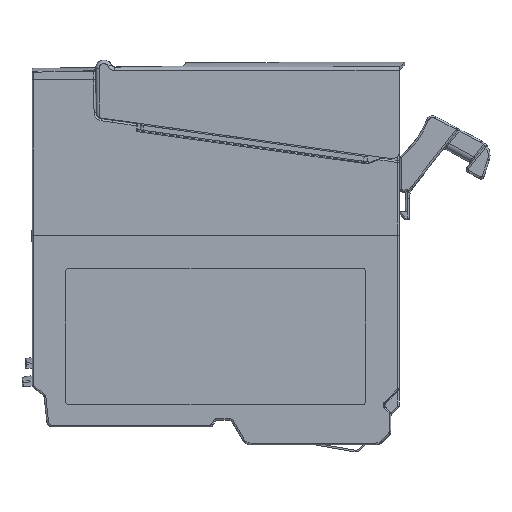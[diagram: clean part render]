
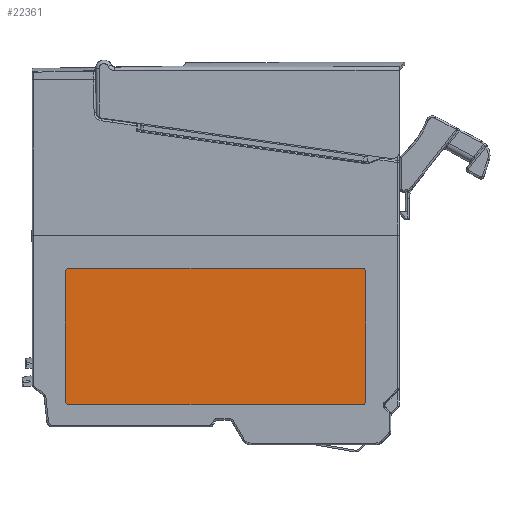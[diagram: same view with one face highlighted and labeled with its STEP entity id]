
A CAD part, left-side view. The second image highlights one B-rep face of the part: STEP entity #22361.
In plain terms, the highlighted planar face has unit normal (-1, 0, 0).
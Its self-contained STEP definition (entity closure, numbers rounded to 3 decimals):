
#9405 = EDGE_LOOP ( 'NONE', ( #15037, #15356, #16650, #121378, #15999, #14833, #121623, #15996 ) ) ;
#12934 = CARTESIAN_POINT ( 'NONE',  ( -22.341, 56.436, -35.79 ) ) ;
#12997 = CARTESIAN_POINT ( 'NONE',  ( -22.341, -32.564, -75.59 ) ) ;
#13341 = CARTESIAN_POINT ( 'NONE',  ( -22.341, -33.564, -35.79 ) ) ;
#13386 = CARTESIAN_POINT ( 'NONE',  ( -22.341, 55.436, -34.79 ) ) ;
#13477 = CARTESIAN_POINT ( 'NONE',  ( -22.341, 55.436, -75.59 ) ) ;
#13496 = CARTESIAN_POINT ( 'NONE',  ( -22.341, 56.436, -74.59 ) ) ;
#13588 = CARTESIAN_POINT ( 'NONE',  ( -22.341, -33.564, -74.59 ) ) ;
#13824 = CARTESIAN_POINT ( 'NONE',  ( -22.341, -32.564, -34.79 ) ) ;
#14833 = ORIENTED_EDGE ( 'NONE', *, *, #123023, .F. ) ;
#15037 = ORIENTED_EDGE ( 'NONE', *, *, #123638, .F. ) ;
#15356 = ORIENTED_EDGE ( 'NONE', *, *, #123636, .F. ) ;
#15996 = ORIENTED_EDGE ( 'NONE', *, *, #123539, .F. ) ;
#15999 = ORIENTED_EDGE ( 'NONE', *, *, #123805, .F. ) ;
#16650 = ORIENTED_EDGE ( 'NONE', *, *, #123560, .F. ) ;
#22361 = ADVANCED_FACE ( 'NONE', ( #137933 ), #137935, .T. ) ;
#27313 = CARTESIAN_POINT ( 'NONE',  ( -22.341, 55.436, -74.59 ) ) ;
#27315 = DIRECTION ( 'NONE',  ( 1., 0., 0. ) ) ;
#27317 = DIRECTION ( 'NONE',  ( 0., 0., 1. ) ) ;
#65170 = VERTEX_POINT ( 'NONE', #12934 ) ;
#65245 = VERTEX_POINT ( 'NONE', #12997 ) ;
#65669 = VERTEX_POINT ( 'NONE', #13341 ) ;
#65768 = VERTEX_POINT ( 'NONE', #13386 ) ;
#65935 = VERTEX_POINT ( 'NONE', #13477 ) ;
#65980 = VERTEX_POINT ( 'NONE', #13496 ) ;
#66244 = VERTEX_POINT ( 'NONE', #13588 ) ;
#66859 = VERTEX_POINT ( 'NONE', #13824 ) ;
#68829 = LINE ( 'NONE', #68830, #95935 ) ;
#68830 = CARTESIAN_POINT ( 'NONE',  ( -22.341, -32.564, -75.59 ) ) ;
#68831 = DIRECTION ( 'NONE',  ( 0., 1., 0. ) ) ;
#75564 = CARTESIAN_POINT ( 'NONE',  ( -22.341, 56.436, -35.79 ) ) ;
#75591 = LINE ( 'NONE', #75564, #94930 ) ;
#75598 = DIRECTION ( 'NONE',  ( 0., 0., 1. ) ) ;
#75750 = CARTESIAN_POINT ( 'NONE',  ( -22.341, -33.564, -35.79 ) ) ;
#75771 = LINE ( 'NONE', #75750, #94661 ) ;
#75776 = DIRECTION ( 'NONE',  ( 0., 0., -1. ) ) ;
#75839 = CARTESIAN_POINT ( 'NONE',  ( -22.341, 55.436, -35.79 ) ) ;
#75840 = DIRECTION ( 'NONE',  ( 1., 0., 0. ) ) ;
#75841 = DIRECTION ( 'NONE',  ( 0., 0., 1. ) ) ;
#75923 = CARTESIAN_POINT ( 'NONE',  ( -22.341, -32.564, -74.59 ) ) ;
#75924 = DIRECTION ( 'NONE',  ( 1., 0., 0. ) ) ;
#75926 = DIRECTION ( 'NONE',  ( 0., 0., -1. ) ) ;
#76170 = LINE ( 'NONE', #76174, #93920 ) ;
#76174 = CARTESIAN_POINT ( 'NONE',  ( -22.341, -32.564, -34.79 ) ) ;
#76176 = DIRECTION ( 'NONE',  ( 0., -1., 0. ) ) ;
#76181 = CARTESIAN_POINT ( 'NONE',  ( -22.341, -32.564, -35.79 ) ) ;
#76183 = DIRECTION ( 'NONE',  ( 1., 0., 0. ) ) ;
#76184 = DIRECTION ( 'NONE',  ( 0., 0., 1. ) ) ;
#93905 = AXIS2_PLACEMENT_3D ( 'NONE', #76181, #76183, #76184 ) ;
#93920 = VECTOR ( 'NONE', #76176, 1000. ) ;
#93946 = CIRCLE ( 'NONE', #93905, 1. ) ;
#94321 = AXIS2_PLACEMENT_3D ( 'NONE', #75923, #75924, #75926 ) ;
#94352 = CIRCLE ( 'NONE', #94321, 1. ) ;
#94456 = AXIS2_PLACEMENT_3D ( 'NONE', #75839, #75840, #75841 ) ;
#94543 = CIRCLE ( 'NONE', #94456, 1. ) ;
#94661 = VECTOR ( 'NONE', #75776, 1000. ) ;
#94930 = VECTOR ( 'NONE', #75598, 1000. ) ;
#95935 = VECTOR ( 'NONE', #68831, 1000. ) ;
#96658 = CIRCLE ( 'NONE', #96744, 1. ) ;
#96744 = AXIS2_PLACEMENT_3D ( 'NONE', #27313, #27315, #27317 ) ;
#107950 = AXIS2_PLACEMENT_3D ( 'NONE', #137972, #137974, #137977 ) ;
#121378 = ORIENTED_EDGE ( 'NONE', *, *, #123495, .F. ) ;
#121623 = ORIENTED_EDGE ( 'NONE', *, *, #123581, .F. ) ;
#123023 = EDGE_CURVE ( 'NONE', #65245, #65935, #68829, .T. ) ;
#123495 = EDGE_CURVE ( 'NONE', #65980, #65170, #75591, .T. ) ;
#123539 = EDGE_CURVE ( 'NONE', #65669, #66244, #75771, .T. ) ;
#123560 = EDGE_CURVE ( 'NONE', #65170, #65768, #94543, .T. ) ;
#123581 = EDGE_CURVE ( 'NONE', #66244, #65245, #94352, .T. ) ;
#123636 = EDGE_CURVE ( 'NONE', #65768, #66859, #76170, .T. ) ;
#123638 = EDGE_CURVE ( 'NONE', #66859, #65669, #93946, .T. ) ;
#123805 = EDGE_CURVE ( 'NONE', #65935, #65980, #96658, .T. ) ;
#137933 = FACE_OUTER_BOUND ( 'NONE', #9405, .T. ) ;
#137935 = PLANE ( 'NONE',  #107950 ) ;
#137972 = CARTESIAN_POINT ( 'NONE',  ( -22.341, -32.564, -35.79 ) ) ;
#137974 = DIRECTION ( 'NONE',  ( -1., 0., 0. ) ) ;
#137977 = DIRECTION ( 'NONE',  ( 0., 0., 1. ) ) ;
